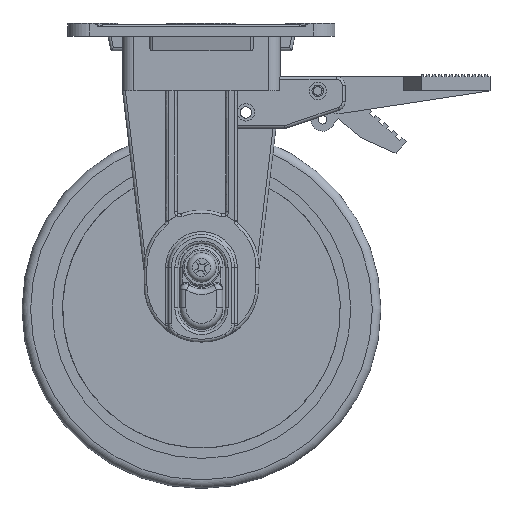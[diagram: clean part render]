
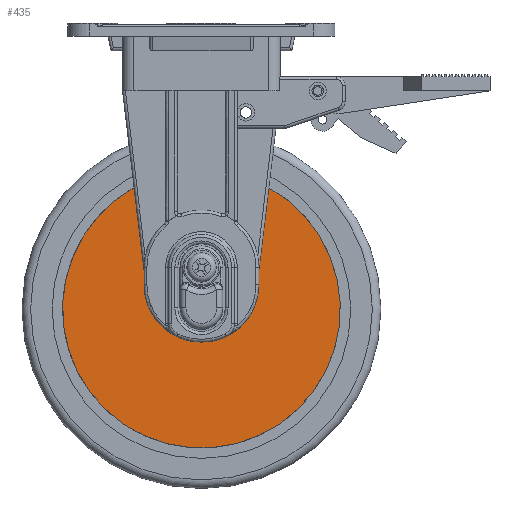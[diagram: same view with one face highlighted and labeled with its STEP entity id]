
A CAD part, front view. The second image highlights one B-rep face of the part: STEP entity #435.
In plain terms, the highlighted planar face has unit normal (0, -1, 0).
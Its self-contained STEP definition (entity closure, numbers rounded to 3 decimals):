
#357=CARTESIAN_POINT('',(-95.837,101.174,-177.965));
#358=VERTEX_POINT('',#357);
#367=CARTESIAN_POINT('',(-142.763,101.174,-177.965));
#368=VERTEX_POINT('',#367);
#369=CARTESIAN_POINT('',(-119.3,101.174,-220.263));
#370=DIRECTION('',(0.0,-1.0,0.0));
#371=DIRECTION('',(1.0,0.0,0.0));
#372=AXIS2_PLACEMENT_3D('',#369,#370,#371);
#373=CIRCLE('',#372,48.37);
#374=EDGE_CURVE('',#368,#358,#373,.T.);
#394=CARTESIAN_POINT('',(-119.3,101.174,-220.263));
#395=DIRECTION('',(0.0,-1.0,0.0));
#396=DIRECTION('',(0.0,0.0,-1.0));
#397=AXIS2_PLACEMENT_3D('',#394,#395,#396);
#398=PLANE('',#397);
#399=CARTESIAN_POINT('',(-96.272,101.174,-181.603));
#400=VERTEX_POINT('',#399);
#401=CARTESIAN_POINT('',(-96.272,101.174,-181.603));
#402=DIRECTION('',(0.119,0.0,0.993));
#403=VECTOR('',#402,3.664);
#404=LINE('',#401,#403);
#405=EDGE_CURVE('',#400,#358,#404,.T.);
#406=ORIENTED_EDGE('',*,*,#405,.F.);
#407=CARTESIAN_POINT('',(-142.328,101.174,-181.603));
#408=VERTEX_POINT('',#407);
#409=CARTESIAN_POINT('',(-142.328,101.174,-181.603));
#410=DIRECTION('',(1.0,0.0,0.0));
#411=VECTOR('',#410,46.056);
#412=LINE('',#409,#411);
#413=EDGE_CURVE('',#408,#400,#412,.T.);
#414=ORIENTED_EDGE('',*,*,#413,.F.);
#415=CARTESIAN_POINT('',(-142.763,101.174,-177.965));
#416=DIRECTION('',(0.119,0.0,-0.993));
#417=VECTOR('',#416,3.664);
#418=LINE('',#415,#417);
#419=EDGE_CURVE('',#368,#408,#418,.T.);
#420=ORIENTED_EDGE('',*,*,#419,.F.);
#421=ORIENTED_EDGE('',*,*,#374,.T.);
#422=EDGE_LOOP('',(#406,#414,#420,#421));
#423=FACE_OUTER_BOUND('',#422,.T.);
#424=CARTESIAN_POINT('',(-122.553,101.174,-208.004));
#425=VERTEX_POINT('',#424);
#426=CARTESIAN_POINT('',(-119.3,101.174,-205.763));
#427=DIRECTION('',(0.0,-1.,0.0));
#428=DIRECTION('',(0.823,0.0,0.567));
#429=AXIS2_PLACEMENT_3D('',#426,#427,#428);
#430=CIRCLE('',#429,3.95);
#431=EDGE_CURVE('',#425,#425,#430,.T.);
#432=ORIENTED_EDGE('',*,*,#431,.F.);
#433=EDGE_LOOP('',(#432));
#434=FACE_BOUND('',#433,.T.);
#435=ADVANCED_FACE('',(#423,#434),#398,.T.);
